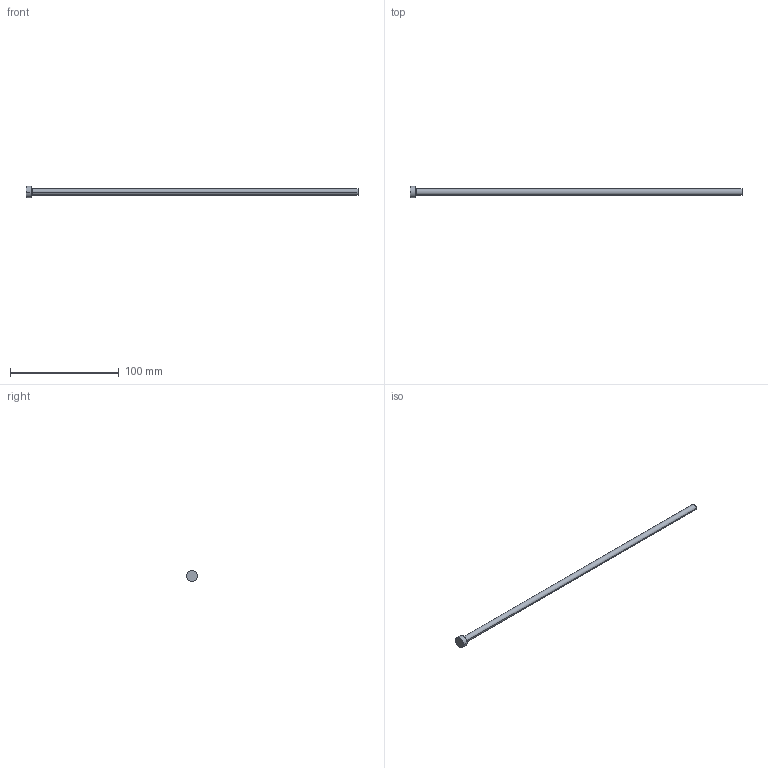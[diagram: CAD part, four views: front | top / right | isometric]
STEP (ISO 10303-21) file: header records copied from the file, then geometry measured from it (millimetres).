
FILE_DESCRIPTION (( 'STEP AP214' ), '1' );
FILE_NAME ('P15-12.STEP', '2020-03-11T18:30:57', ( '' ), ( '' ), 'SwSTEP 2.0', 'SolidWorks 2018', '' );
FILE_SCHEMA (( 'AUTOMOTIVE_DESIGN' ));
Length unit declared in the file: inch
Products named in the file (1): P15-12
Bounding box: 304.8 x 10.32 x 10.32 mm (x, y, z)
Volume: 7655.2 mm3; surface area: 5542.4 mm2
Topology: 1 solids, 1 shells, 13 faces, 24 edges, 14 vertices
Faces by surface type: cone 4, cylinder 4, plane 3, torus 2
Entity records: 366 total; most frequent: DIRECTION 68, CARTESIAN_POINT 52, ORIENTED_EDGE 48, AXIS2_PLACEMENT_3D 30, EDGE_CURVE 24, CIRCLE 16, VERTEX_POINT 14, EDGE_LOOP 14
